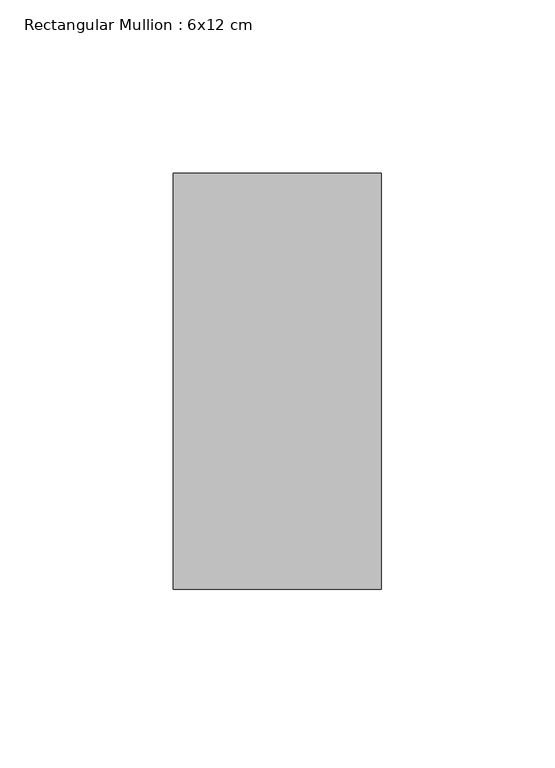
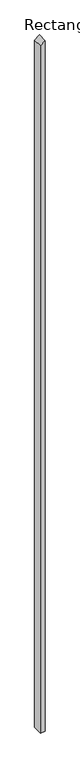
"""IFC4 building model written with IfcOpenShell, lengths in millimetres: member geometry, Rectangular Mullion : 6x12 cm."""

from ifc_helpers import new_model, si_unit, frame, origin, place, context, project, spatial, polyline, outline, extrude, source, transform, mapped, element, save


def rectangular_mullion_6x12_cm_743cc83f(model_context):
    return source(origin(), model_context, "Body", "SweptSolid", [
        extrude(outline(polyline([(-53.0382846, 30.0), (-102.5744079, -30.0), (-9029.1138213, -30.0), (-9029.1138213, 30.0), (-53.0382846, 30.0)])), frame((0.0, 85.0, 0.0), z_axis=(0.0, 1.0, 0.0), x_axis=(0.0, 0.0, 1.0)), (0.0, 0.0, 1.0), 120.0),
    ])


if __name__ == "__main__":
    model = new_model("IFC4")
    model_context = context("Model", 3, world=origin())
    ifc_project = project(units=[si_unit("LENGTHUNIT", "METRE", prefix="MILLI")], contexts=[model_context])
    site = spatial("IfcSite", under=ifc_project)
    building = spatial("IfcBuilding", under=site)
    placement = place(None, origin())
    rectangular_mullion_6x12_cm_shape = rectangular_mullion_6x12_cm_743cc83f(model_context)
    element("IfcMember", 1, ObjectType="Rectangular Mullion : 6x12 cm", at=placement, inside=building, context=model_context, shape_type="MappedRepresentation", body=[
        mapped(rectangular_mullion_6x12_cm_shape, transform((0.0, 0.0, 0.0), x_axis=(1.0, 0.0, 0.0), y_axis=(0.0, 1.0, 0.0), z_axis=(0.0, 0.0, 1.0))),
    ])
    save(model, "model.ifc")
